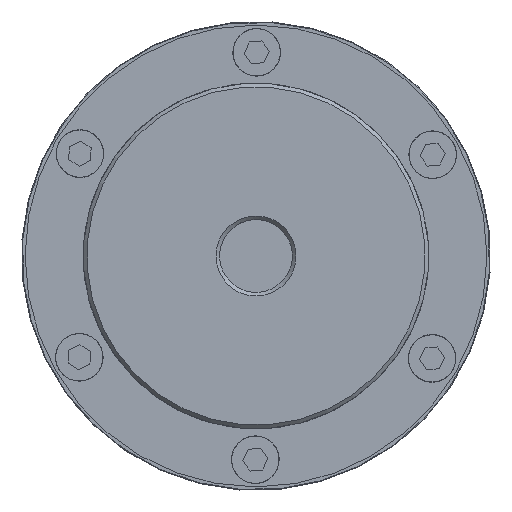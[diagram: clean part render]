
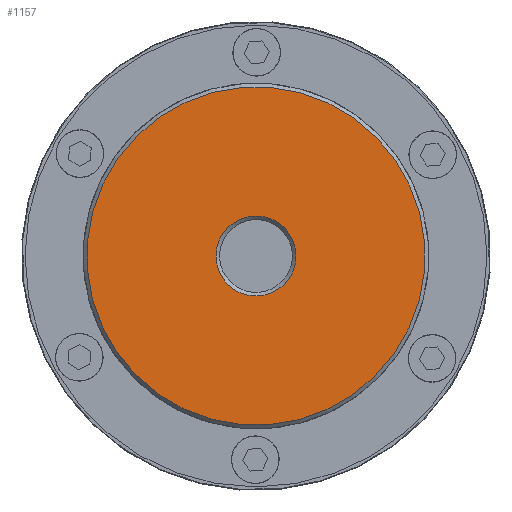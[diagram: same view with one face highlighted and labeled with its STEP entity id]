
A CAD part, left-side view. The second image highlights one B-rep face of the part: STEP entity #1157.
In plain terms, the highlighted planar face has unit normal (-1, 0, 0) as drawn and (0, 0, -1) by its records, which use the part's own axes.
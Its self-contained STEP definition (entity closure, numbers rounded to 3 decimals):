
#1157 = ADVANCED_FACE( '', ( #2417, #2418 ), #2419, .T. );
#2417 = FACE_BOUND( '', #4086, .T. );
#2418 = FACE_OUTER_BOUND( '', #4087, .T. );
#2419 = PLANE( '', #4088 );
#4086 = EDGE_LOOP( '', ( #5726 ) );
#4087 = EDGE_LOOP( '', ( #5727 ) );
#4088 = AXIS2_PLACEMENT_3D( '', #5728, #5729, #5730 );
#5726 = ORIENTED_EDGE( '', *, *, #8697, .T. );
#5727 = ORIENTED_EDGE( '', *, *, #8588, .T. );
#5728 = CARTESIAN_POINT( '', ( 0., 0., 0. ) );
#5729 = DIRECTION( '', ( 0., 0., -1. ) );
#5730 = DIRECTION( '', ( -1., 0., 0. ) );
#8588 = EDGE_CURVE( '', #9811, #9811, #9812, .T. );
#8697 = EDGE_CURVE( '', #10001, #10001, #10002, .F. );
#9811 = VERTEX_POINT( '', #11550 );
#9812 = CIRCLE( '', #11551, 46.5 );
#10001 = VERTEX_POINT( '', #11803 );
#10002 = CIRCLE( '', #11804, 11. );
#11550 = CARTESIAN_POINT( '', ( -46.5, 0., 0. ) );
#11551 = AXIS2_PLACEMENT_3D( '', #14327, #14328, #14329 );
#11803 = CARTESIAN_POINT( '', ( -11., 0., 0. ) );
#11804 = AXIS2_PLACEMENT_3D( '', #14500, #14501, #14502 );
#14327 = CARTESIAN_POINT( '', ( 0., 0., 0. ) );
#14328 = DIRECTION( '', ( 0., 0., -1. ) );
#14329 = DIRECTION( '', ( -1., 0., 0. ) );
#14500 = CARTESIAN_POINT( '', ( 0., 0., 0. ) );
#14501 = DIRECTION( '', ( 0., 0., -1. ) );
#14502 = DIRECTION( '', ( -1., 0., 0. ) );
